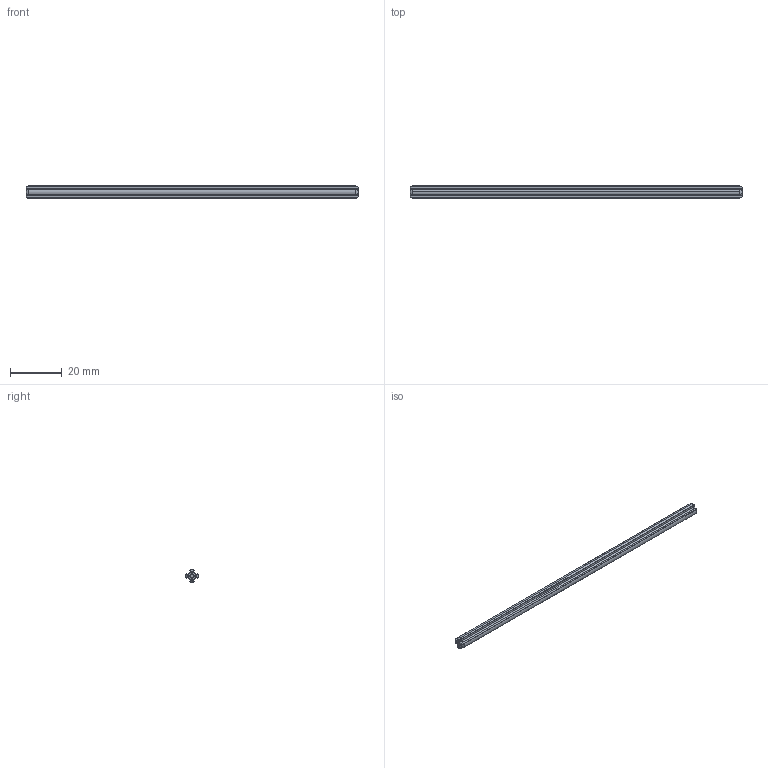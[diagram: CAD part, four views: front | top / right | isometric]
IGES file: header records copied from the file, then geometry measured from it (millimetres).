
Start section: SolidWorks IGES file using analytic representation for surfaces
Global section: file name: C:\Users\PC\Desktop\Lego Technik Gear and Axles\Axles\STEP, IGES, STL\50451 Black Technic Axle 16.IGS; native system: SolidWorks 2014; preprocessor: SolidWorks 2014; author: PC; date: 150218.234212; units: millimetre
Bounding box: 128 x 4.79 x 4.8 mm (x, y, z)
Surface area: 2189.5 mm2 (no closed solid volume)
Topology: 0 solids, 0 shells, 77 faces, 490 edges, 474 vertices
Faces by surface type: bspline 44, revolution 33
